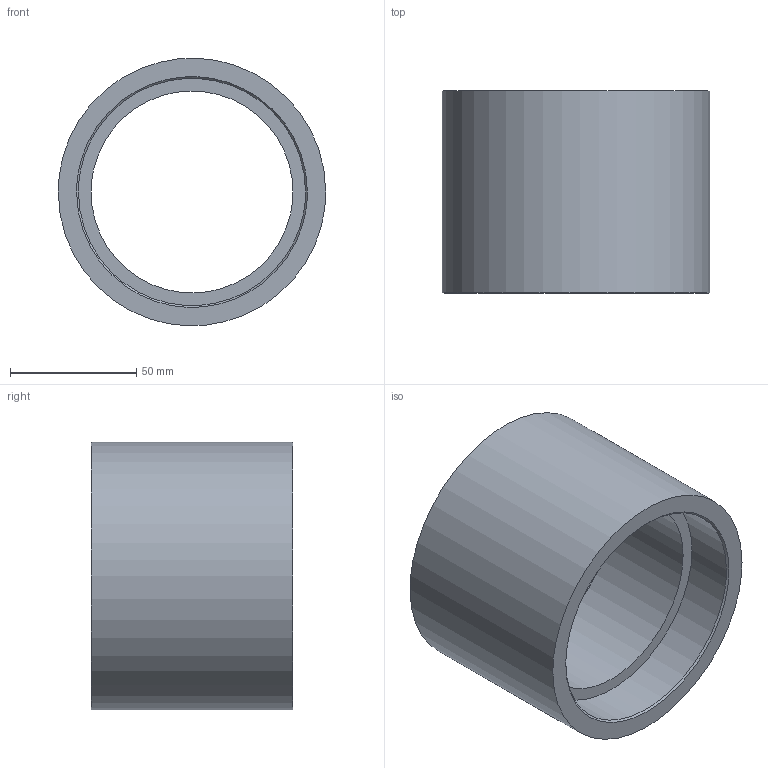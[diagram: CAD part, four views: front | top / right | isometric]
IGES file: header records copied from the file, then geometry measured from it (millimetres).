
Global section: file name: Bague 1 v2 v1; native system: unknown; preprocessor: unknown; author: unknown; organization: unknown; date: 20160212.102918; units: millimetre
Bounding box: 106 x 80 x 105.95 mm (x, y, z)
Volume: 250369.8 mm3; surface area: 55384.6 mm2
Topology: 1 solids, 1 shells, 10 faces, 26 edges, 20 vertices
Faces by surface type: bspline 10
